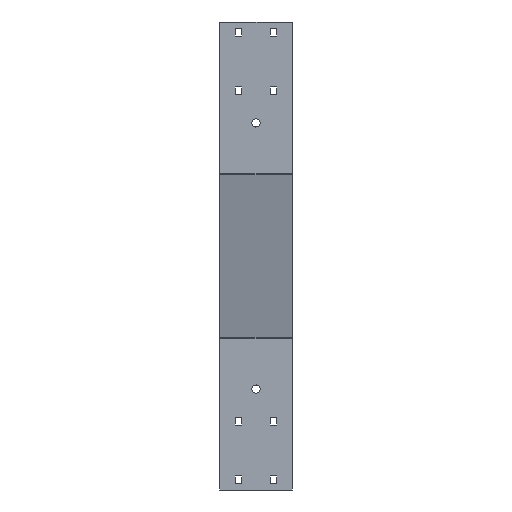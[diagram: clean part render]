
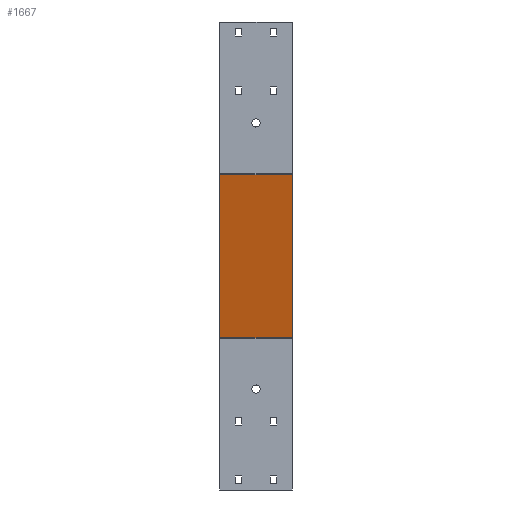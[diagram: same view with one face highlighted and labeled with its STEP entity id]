
A CAD part, left-side view. The second image highlights one B-rep face of the part: STEP entity #1667.
In plain terms, the highlighted planar face has unit normal (-0.966, 0, -0.259) as drawn and (0.966, 0, -0.259) by its records, which use the part's own axes.
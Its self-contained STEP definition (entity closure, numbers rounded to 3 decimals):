
#614 = ORIENTED_EDGE ( 'NONE', *, *, #1576, .F. ) ;
#1020 = AXIS2_PLACEMENT_3D ( 'NONE', #3449, #5238, #6049 ) ;
#1123 = VERTEX_POINT ( 'NONE', #6085 ) ;
#1451 = DIRECTION ( 'NONE',  ( -0.259, 0., -0.966 ) ) ;
#1524 = DIRECTION ( 'NONE',  ( -0.259, 0., -0.966 ) ) ;
#1550 = CARTESIAN_POINT ( 'NONE',  ( 152.051, 124., -280.073 ) ) ;
#1576 = EDGE_CURVE ( 'NONE', #1123, #6583, #6567, .T. ) ;
#1667 = ADVANCED_FACE ( 'NONE', ( #7283 ), #3928, .F. ) ;
#1733 = VECTOR ( 'NONE', #6610, 1000. ) ;
#2605 = VECTOR ( 'NONE', #1451, 1000. ) ;
#3366 = CARTESIAN_POINT ( 'NONE',  ( 226.932, 0., -0.517 ) ) ;
#3449 = CARTESIAN_POINT ( 'NONE',  ( 226.932, 124., -0.517 ) ) ;
#3704 = ORIENTED_EDGE ( 'NONE', *, *, #8111, .T. ) ;
#3928 = PLANE ( 'NONE',  #1020 ) ;
#4009 = CARTESIAN_POINT ( 'NONE',  ( 226.881, 124., -0.708 ) ) ;
#4045 = DIRECTION ( 'NONE',  ( 0., 1., 0. ) ) ;
#4585 = ORIENTED_EDGE ( 'NONE', *, *, #4885, .F. ) ;
#4644 = LINE ( 'NONE', #3366, #8137 ) ;
#4697 = LINE ( 'NONE', #6151, #2605 ) ;
#4885 = EDGE_CURVE ( 'NONE', #6583, #5812, #4697, .T. ) ;
#5190 = EDGE_LOOP ( 'NONE', ( #7200, #3704, #4585, #614 ) ) ;
#5238 = DIRECTION ( 'NONE',  ( -0.966, 0., 0.259 ) ) ;
#5568 = VERTEX_POINT ( 'NONE', #6994 ) ;
#5812 = VERTEX_POINT ( 'NONE', #1550 ) ;
#5927 = VECTOR ( 'NONE', #4045, 1000. ) ;
#6049 = DIRECTION ( 'NONE',  ( 0.259, 0., 0.966 ) ) ;
#6085 = CARTESIAN_POINT ( 'NONE',  ( 226.881, 0., -0.708 ) ) ;
#6151 = CARTESIAN_POINT ( 'NONE',  ( 226.932, 124., -0.517 ) ) ;
#6567 = LINE ( 'NONE', #7971, #5927 ) ;
#6583 = VERTEX_POINT ( 'NONE', #4009 ) ;
#6610 = DIRECTION ( 'NONE',  ( 0., 1., 0. ) ) ;
#6994 = CARTESIAN_POINT ( 'NONE',  ( 152.051, 0., -280.073 ) ) ;
#7200 = ORIENTED_EDGE ( 'NONE', *, *, #8139, .T. ) ;
#7247 = CARTESIAN_POINT ( 'NONE',  ( 152.051, 0., -280.073 ) ) ;
#7283 = FACE_OUTER_BOUND ( 'NONE', #5190, .T. ) ;
#7971 = CARTESIAN_POINT ( 'NONE',  ( 226.881, 0., -0.708 ) ) ;
#8059 = LINE ( 'NONE', #7247, #1733 ) ;
#8111 = EDGE_CURVE ( 'NONE', #5568, #5812, #8059, .T. ) ;
#8137 = VECTOR ( 'NONE', #1524, 1000. ) ;
#8139 = EDGE_CURVE ( 'NONE', #1123, #5568, #4644, .T. ) ;
